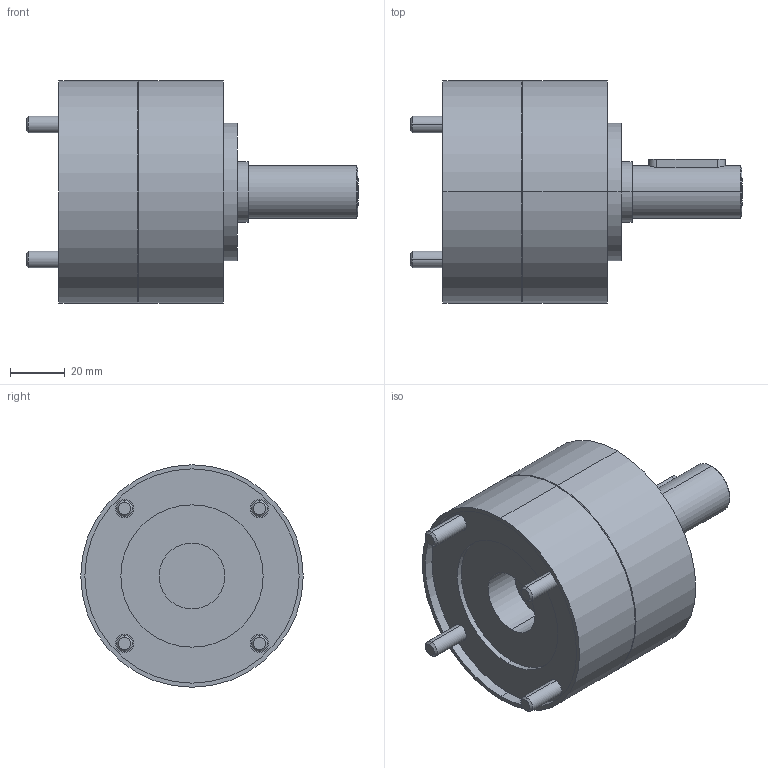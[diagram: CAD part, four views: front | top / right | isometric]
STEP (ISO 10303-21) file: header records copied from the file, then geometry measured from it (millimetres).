
FILE_DESCRIPTION (( 'STEP AP214' ), '1' );
FILE_NAME ('PM80_1stufig.STEP', '2012-09-19T12:44:56', ( ' ' ), ( '' ), 'SwSTEP 2.0', 'SolidWorks 2010', '' );
FILE_SCHEMA (( 'AUTOMOTIVE_DESIGN' ));
Length unit declared in the file: millimetre
Products named in the file (1): PM80_1stufig
Bounding box: 120.9 x 81 x 81 mm (x, y, z)
Volume: 302456.3 mm3; surface area: 43386.2 mm2
Topology: 1 solids, 1 shells, 161 faces, 348 edges, 211 vertices
Faces by surface type: cylinder 62, plane 55, cone 36, torus 8
Entity records: 5511 total; most frequent: DIRECTION 820, CARTESIAN_POINT 773, ORIENTED_EDGE 676, EDGE_CURVE 338, AXIS2_PLACEMENT_3D 322, VERTEX_POINT 211, EDGE_LOOP 193, VECTOR 176
